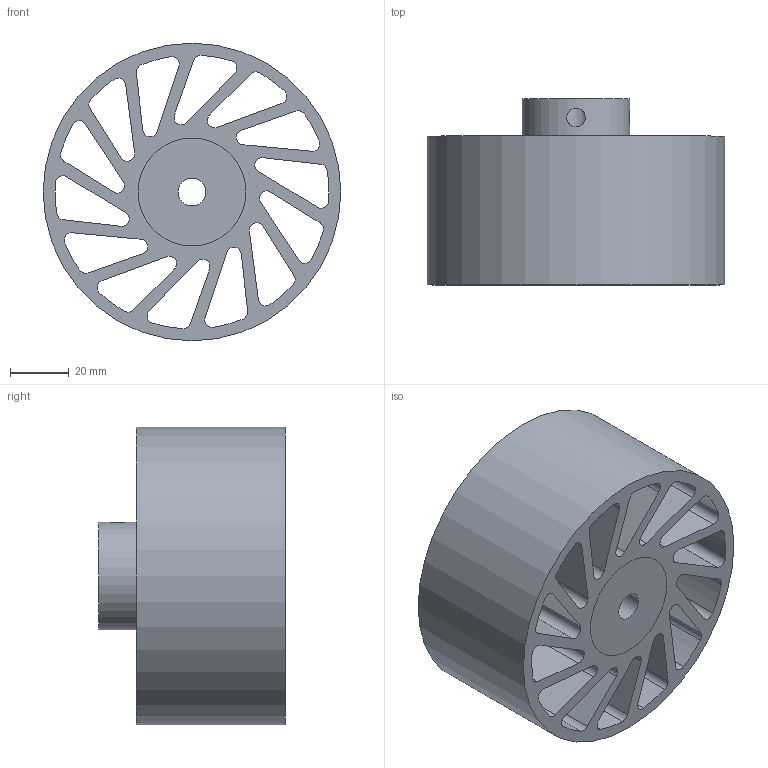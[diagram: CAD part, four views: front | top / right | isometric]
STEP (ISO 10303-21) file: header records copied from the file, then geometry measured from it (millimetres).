
FILE_DESCRIPTION(/* description */ (''),/* implementation_level */ '2;1');
FILE_NAME(/* name */ 'NCW-390-XXX-YYY.stp',/* time_stamp */ '2023-02-02T15:06:51-06:00',/* author */ ('AG'),/* organization */ ('Meridian Laboratory'),/* preprocessor_version */ 'ST-DEVELOPER v18.1',/* originating_system */ 'Autodesk Inventor 2022',/* authorisation */ '');
FILE_SCHEMA (('AUTOMOTIVE_DESIGN { 1 0 10303 214 3 1 1 }'));
Length unit declared in the file: inch
Products named in the file (1): NCW-340
Bounding box: 101.6 x 63.5 x 101.6 mm (x, y, z)
Volume: 239049.4 mm3; surface area: 89924.5 mm2
Topology: 2 solids, 2 shells, 94 faces, 276 edges, 186 vertices
Faces by surface type: cylinder 62, plane 32
Full cylindrical faces by diameter (mm): 6.35 x2, 9.538 x1, 36.83 x2, 101.6 x1
Entity records: 3530 total; most frequent: CARTESIAN_POINT 697, DIRECTION 576, ORIENTED_EDGE 552, EDGE_CURVE 276, AXIS2_PLACEMENT_3D 215, VERTEX_POINT 186, LINE 146, VECTOR 146
